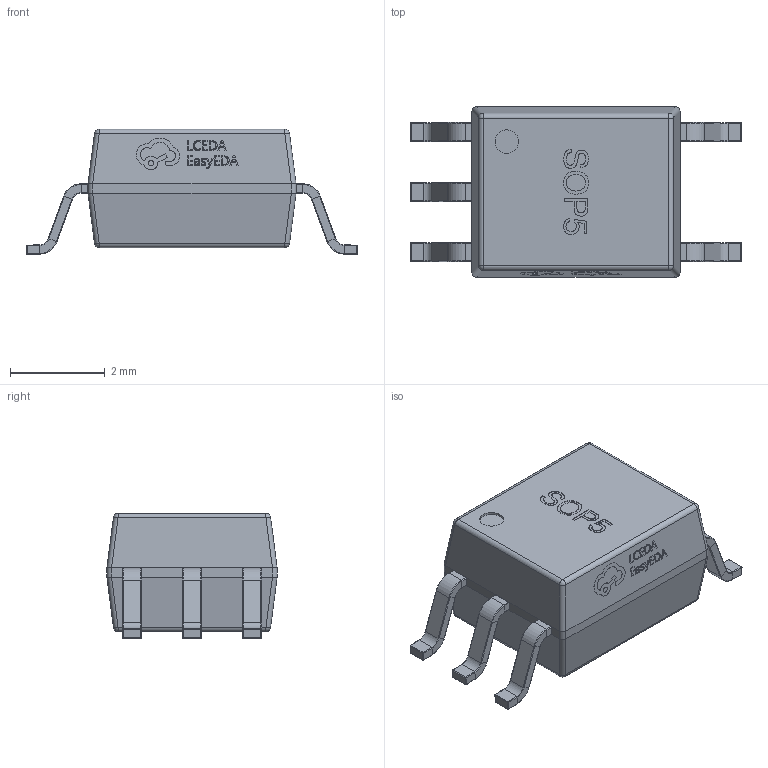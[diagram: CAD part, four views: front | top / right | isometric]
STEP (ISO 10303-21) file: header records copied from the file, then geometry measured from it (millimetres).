
FILE_DESCRIPTION (( 'STEP AP214' ), '1' );
FILE_NAME ('SOP-5_L3.6-W4.4-H2.5-LS7.0-P1.27.step', '2022-07-26T10:14:00', ( '' ), ( '' ), 'SwSTEP 2.0', 'SolidWorks 2020', '' );
FILE_SCHEMA (( 'AUTOMOTIVE_DESIGN' ));
Length unit declared in the file: millimetre
Products named in the file (1): SOP-5_L3.6-W4.4-H2.5-LS7.0-P1.27
Bounding box: 7.01 x 3.6 x 2.65 mm (x, y, z)
Volume: 37.7 mm3; surface area: 78.6 mm2
Topology: 19 solids, 19 shells, 663 faces, 1599 edges, 978 vertices
Faces by surface type: plane 308, bspline 155, cylinder 127, torus 40, sphere 33
Entity records: 28952 total; most frequent: CARTESIAN_POINT 7758, ORIENTED_EDGE 3158, DIRECTION 2542, EDGE_CURVE 1579, VERTEX_POINT 968, LINE 958, VECTOR 958, AXIS2_PLACEMENT_3D 792
